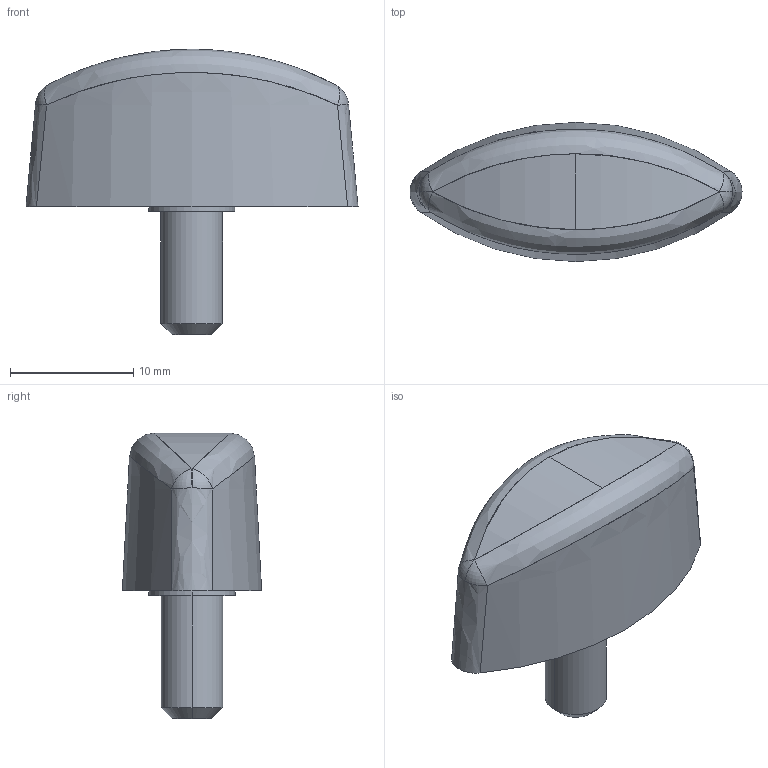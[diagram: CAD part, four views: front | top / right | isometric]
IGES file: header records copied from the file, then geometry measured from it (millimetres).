
Start section: SolidWorks IGES file using analytic representation for surfaces
Global section: file name: X:\11_SW2020-Inv2020\00_全2021-11新製品まで\l\LS5X10\ls5x10.IGS; native system: SolidWorks 2020; preprocessor: SolidWorks 2020; author: ImaoCorp; date: 211025.115627; units: millimetre
Bounding box: 26.95 x 11.3 x 23.19 mm (x, y, z)
Surface area: 1218.9 mm2 (no closed solid volume)
Topology: 0 solids, 0 shells, 21 faces, 294 edges, 294 vertices
Faces by surface type: revolution 14, bspline 7
